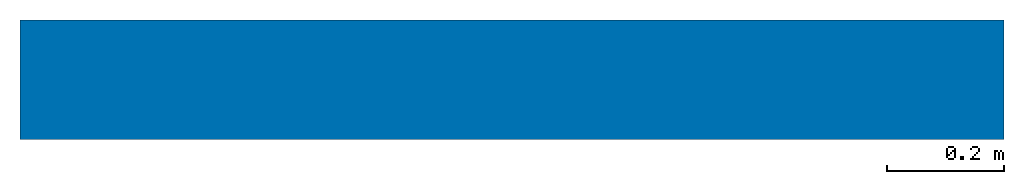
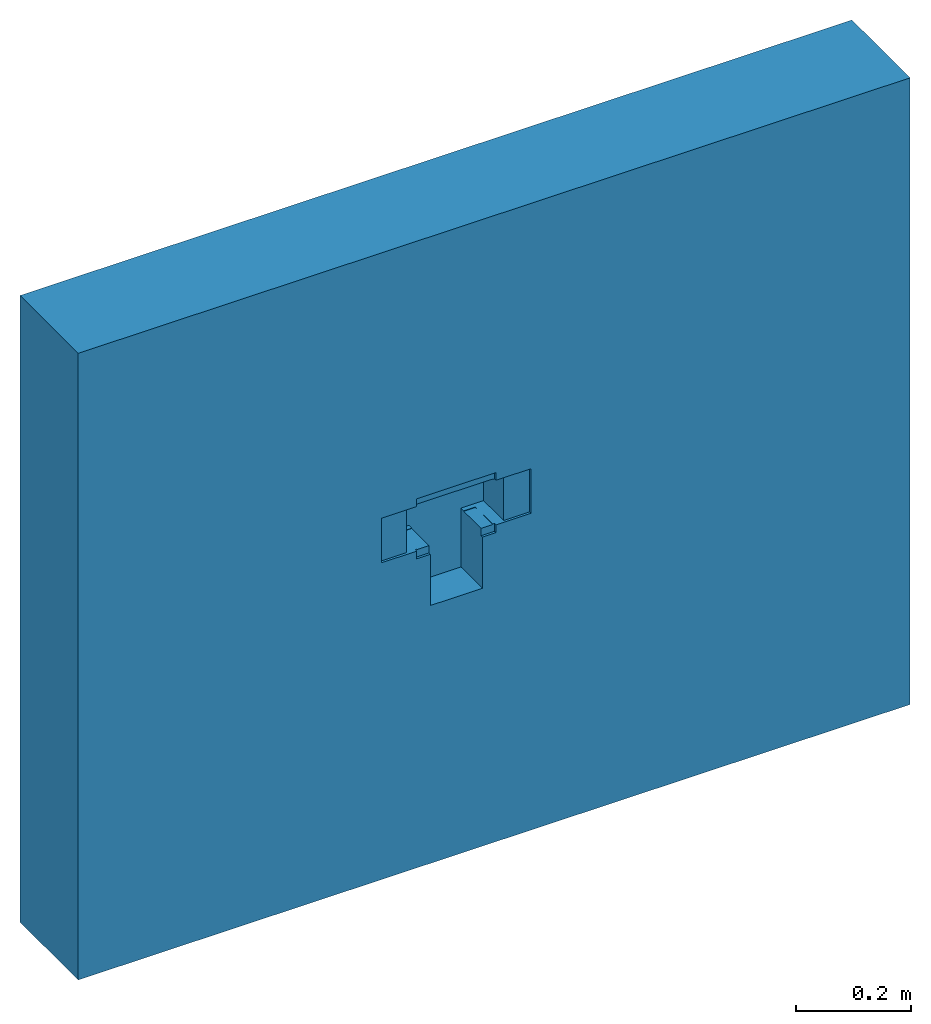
# One storey: 1 wall, 1 opening.
"""IFC2X3 building model written with IfcOpenShell, lengths in feet."""

from ifc_helpers import new_model, entity, si_unit, converted_unit, derived_unit, direction, frame, frame_2d, origin, place, context, subcontext, project, spatial, rectangle, extrude, faceted_brep, material, layer, layer_set, layer_usage, type_object, element, save


model = new_model("IFC2X3")

# Units and contexts
model_context = context("Model", 3, precision=0.0001, world=origin(), true_north=direction((6.12303176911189e-17, 1.0)))
body_context = subcontext(model_context, "Body", "Model", "MODEL_VIEW")
ifc_project = project(units=[converted_unit("LENGTHUNIT", "FOOT", entity("IfcRatioMeasure", 0.3048), si_unit("LENGTHUNIT", "METRE"), dimensions=[1, 0, 0, 0, 0, 0, 0]), converted_unit("AREAUNIT", "SQUARE FOOT", entity("IfcRatioMeasure", 0.09290304), si_unit("AREAUNIT", "SQUARE_METRE"), dimensions=[2, 0, 0, 0, 0, 0, 0]), converted_unit("VOLUMEUNIT", "CUBIC FOOT", entity("IfcRatioMeasure", 0.028316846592), si_unit("VOLUMEUNIT", "CUBIC_METRE"), dimensions=[3, 0, 0, 0, 0, 0, 0]), converted_unit("PLANEANGLEUNIT", "DEGREE", entity("IfcRatioMeasure", 0.0174532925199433), si_unit("PLANEANGLEUNIT", "RADIAN"), dimensions=[0, 0, 0, 0, 0, 0, 0]), si_unit("MASSUNIT", "GRAM", prefix="KILO"), derived_unit("MASSDENSITYUNIT", [(si_unit("MASSUNIT", "GRAM", prefix="KILO"), 1), (si_unit("LENGTHUNIT", "METRE"), -3)]), si_unit("TIMEUNIT", "SECOND"), si_unit("FREQUENCYUNIT", "HERTZ"), si_unit("THERMODYNAMICTEMPERATUREUNIT", "DEGREE_CELSIUS"), derived_unit("THERMALTRANSMITTANCEUNIT", [(si_unit("MASSUNIT", "GRAM", prefix="KILO"), 1), (si_unit("THERMODYNAMICTEMPERATUREUNIT", "KELVIN"), -1), (si_unit("TIMEUNIT", "SECOND"), -3)]), derived_unit("VOLUMETRICFLOWRATEUNIT", [(si_unit("LENGTHUNIT", "METRE"), 3), (si_unit("TIMEUNIT", "SECOND"), -1)]), si_unit("ELECTRICCURRENTUNIT", "AMPERE"), si_unit("ELECTRICVOLTAGEUNIT", "VOLT"), si_unit("POWERUNIT", "WATT"), si_unit("FORCEUNIT", "NEWTON"), si_unit("ILLUMINANCEUNIT", "LUX"), si_unit("LUMINOUSFLUXUNIT", "LUMEN"), si_unit("LUMINOUSINTENSITYUNIT", "CANDELA"), derived_unit("USERDEFINED", [(si_unit("MASSUNIT", "GRAM", prefix="KILO"), -1), (si_unit("LENGTHUNIT", "METRE"), -2), (si_unit("TIMEUNIT", "SECOND"), 3), (si_unit("LUMINOUSFLUXUNIT", "LUMEN"), 1)]), derived_unit("LINEARVELOCITYUNIT", [(si_unit("LENGTHUNIT", "METRE"), 1), (si_unit("TIMEUNIT", "SECOND"), -1)]), si_unit("PRESSUREUNIT", "PASCAL"), derived_unit("USERDEFINED", [(si_unit("LENGTHUNIT", "METRE"), -2), (si_unit("MASSUNIT", "GRAM", prefix="KILO"), 1), (si_unit("TIMEUNIT", "SECOND"), -2)])], contexts=[model_context])

# Site, building, storey
site_placement = place(None, origin())
site = spatial("IfcSite", under=ifc_project, at=site_placement, Name="Default", CompositionType="ELEMENT")
building_placement = place(site_placement, origin())
building = spatial("IfcBuilding", under=site, at=building_placement, CompositionType="ELEMENT")
storey_placement = place(building_placement, origin())
storey = spatial("IfcBuildingStorey", under=building, at=storey_placement, Name="Level 1", CompositionType="ELEMENT", Elevation=0.0)

# Wall, opening
ifc_material = material(Name="Default Wall")
ifc_layer = layer(ifc_material, 0.666666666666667)
ifc_layer_set = layer_set([ifc_layer], Name="Basic Wall:Generic - 8\"")
ifc_layer_usage = layer_usage(ifc_layer_set, "AXIS2", "NEGATIVE", 0.333333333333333)
wall_type = type_object("IfcWallType", Name="Basic Wall:Generic - 8\"", PredefinedType="STANDARD", material=ifc_layer_set)
wall_placement = place(storey_placement, frame((-4.51820742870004, 8.07151339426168, 0.0)))
wall = element("IfcWallStandardCase", 1, at=wall_placement, inside=storey, type_object=wall_type, material=ifc_layer_usage, Name="Basic Wall:Generic - 8\"", ObjectType="Basic Wall:Generic - 8\"", context=body_context, shape_type="SweptSolid", body=[
    extrude(rectangle(XDim=5.5, YDim=0.666666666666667, at=frame_2d((2.75, 4.16333634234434e-16), x_axis=(-1.0, 0.0))), origin(), (0.0, 0.0, 1.0), 4.38004442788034),
])
opening_placement = place(wall_placement, frame((2.00623359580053, -0.49737532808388, 1.80230507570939)))
element("IfcOpeningElement", 2, at=opening_placement, cuts=wall, Name="Basic Wall:Generic - 8\"", ObjectType="Opening", context=body_context, shape_type="Brep", body=[
    faceted_brep([(0.0, 0.0, 0.411745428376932), (0.231300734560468, 0.0, 0.411745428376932), (0.231300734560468, 0.0, 0.357611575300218), (0.321522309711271, 0.0, 0.357611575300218), (0.321522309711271, 0.0, 0.0), (0.666010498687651, 0.0, 0.0), (0.666010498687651, 0.0, 0.357611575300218), (0.756235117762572, 0.0, 0.357611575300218), (0.756235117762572, 0.0, 0.411745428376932), (0.987532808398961, 0.0, 0.411745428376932), (0.987532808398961, 0.0, 0.723425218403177), (0.756235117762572, 0.0, 0.723425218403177), (0.756235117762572, 0.0, 0.777559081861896), (0.231300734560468, 0.0, 0.777559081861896), (0.231300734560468, 0.0, 0.723425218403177), (0.0, 0.0, 0.723425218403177), (0.756235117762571, 0.18044619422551, 0.411745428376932), (0.743110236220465, 0.18044619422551, 0.411745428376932), (0.743110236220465, 0.377296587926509, 0.411745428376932), (0.666010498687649, 0.377296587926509, 0.411745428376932), (0.66601049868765, 0.410104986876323, 0.411745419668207), (0.815288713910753, 0.41010498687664, 0.411745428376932), (0.815288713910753, 0.18044619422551, 0.411745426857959), (0.987532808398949, 0.180446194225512, 0.411745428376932), (0.0, 0.180446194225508, 0.723425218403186), (0.0, 0.180446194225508, 0.411745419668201), (0.231300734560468, 0.180446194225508, 0.723425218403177), (0.244422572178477, 0.180446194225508, 0.723425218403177), (0.244422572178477, 0.377296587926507, 0.723425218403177), (0.421587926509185, 0.377296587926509, 0.723425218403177), (0.743110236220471, 0.377296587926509, 0.723425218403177), (0.743110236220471, 0.18044619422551, 0.723425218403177), (0.756235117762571, 0.18044619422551, 0.723425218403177), (0.987532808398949, 0.180446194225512, 0.723425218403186), (0.815288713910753, 0.18044619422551, 0.723425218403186), (0.815288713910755, 0.410104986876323, 0.723425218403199), (0.421587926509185, 0.410104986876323, 0.723425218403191), (0.172244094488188, 0.410104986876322, 0.723425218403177), (0.172244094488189, 0.180446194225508, 0.723425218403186), (0.81528871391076, 0.410104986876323, 0.411745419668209), (0.66601049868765, 0.410104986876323, 0.411745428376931), (0.66601049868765, 0.410104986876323, 0.0), (0.321522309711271, 0.410104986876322, 0.0), (0.321522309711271, 0.410104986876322, 0.411745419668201), (0.172244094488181, 0.410104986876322, 0.411745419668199), (0.172244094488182, 0.180446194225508, 0.411745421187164), (0.815288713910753, 0.18044619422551, 0.411745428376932), (0.743110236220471, 0.377296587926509, 0.726706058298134), (0.244422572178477, 0.377296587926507, 0.726706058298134), (0.743110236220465, 0.377296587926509, 0.408558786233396), (0.743110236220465, 0.18044619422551, 0.408558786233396), (0.66601049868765, 0.18044619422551, 0.408558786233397), (0.666010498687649, 0.377296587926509, 0.408558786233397), (0.244422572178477, 0.377296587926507, 0.408558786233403), (0.244422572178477, 0.180446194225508, 0.408558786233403), (0.244422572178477, 0.180446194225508, 0.411745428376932), (0.244422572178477, 0.377296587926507, 0.411745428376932), (0.244422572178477, 0.180446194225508, 0.726706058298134), (0.743110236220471, 0.18044619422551, 0.726706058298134), (0.321522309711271, 0.180446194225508, 0.357611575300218), (0.321522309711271, 0.180446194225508, 0.408558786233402), (0.32152230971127, 0.377296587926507, 0.408558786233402), (0.32152230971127, 0.377296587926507, 0.411745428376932), (0.321522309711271, 0.410104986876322, 0.411745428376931), (0.66601049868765, 0.18044619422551, 0.357611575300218), (0.756235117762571, 0.18044619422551, 0.777559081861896), (0.231300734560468, 0.180446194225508, 0.777559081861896), (0.231300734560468, 0.180446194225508, 0.357611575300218), (0.756235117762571, 0.18044619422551, 0.357611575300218), (0.231300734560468, 0.180446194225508, 0.411745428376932)], [[[0, 1, 2, 3, 4, 5, 6, 7, 8, 9, 10, 11, 12, 13, 14, 15]], [[8, 16, 17, 18, 19, 20, 21, 22, 23, 9]], [[15, 24, 25, 0]], [[15, 14, 26, 27, 28, 29, 30, 31, 32, 11, 10, 33, 34, 35, 36, 37, 38, 24]], [[9, 23, 33, 10]], [[23, 22, 34, 33]], [[37, 36, 35, 39, 40, 41, 42, 43, 44]], [[44, 45, 38, 37]], [[35, 34, 46, 39]], [[47, 30, 29, 28, 48]], [[49, 50, 51, 52]], [[53, 54, 55, 56]], [[48, 57, 58, 47]], [[47, 58, 31, 30]], [[41, 5, 4, 42]], [[42, 4, 3, 59, 60, 61, 62, 63]], [[40, 19, 52, 51, 64, 6, 5, 41]], [[65, 32, 31, 58, 57, 27, 26, 66]], [[67, 59, 3, 2]], [[66, 26, 14, 13]], [[66, 13, 12, 65]], [[68, 16, 8, 7]], [[12, 11, 32, 65]], [[2, 1, 69, 67]], [[7, 6, 64, 68]], [[68, 64, 51, 50, 17, 16]], [[69, 55, 54, 60, 59, 67]], [[18, 17, 50, 49]], [[28, 27, 57, 48]], [[61, 60, 54, 53]], [[49, 52, 19, 18]], [[56, 62, 61, 53]], [[24, 38, 45, 25]], [[25, 45, 44, 63, 62, 56, 55, 69, 1, 0]]]),
])

save(model, "model.ifc")
